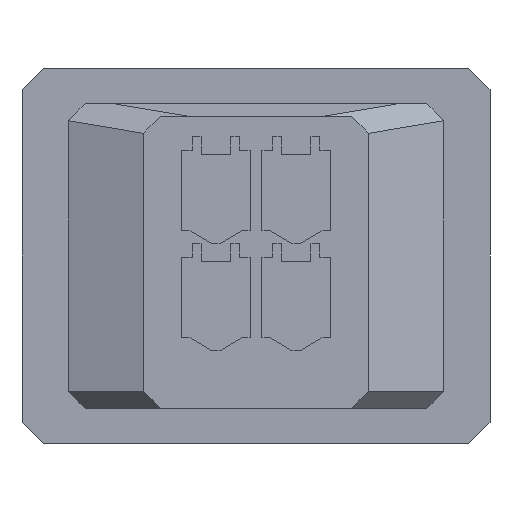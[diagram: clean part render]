
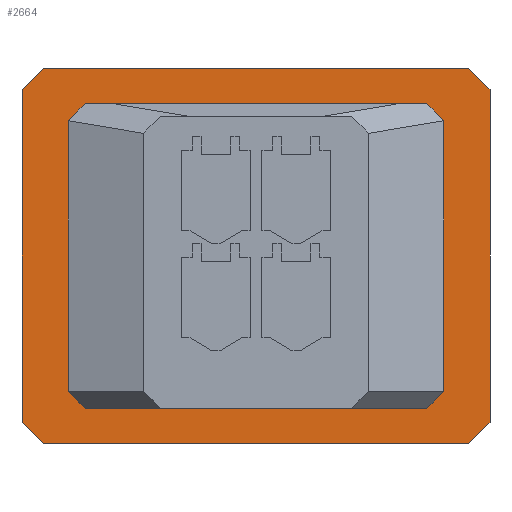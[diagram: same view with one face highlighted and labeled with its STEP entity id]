
A CAD part, front view. The second image highlights one B-rep face of the part: STEP entity #2664.
In plain terms, the highlighted planar face has unit normal (0, -1, 0).
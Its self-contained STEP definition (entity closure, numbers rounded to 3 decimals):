
#49 = EDGE_CURVE ( 'NONE', #2627, #2017, #389, .T. ) ;
#67 = EDGE_CURVE ( 'NONE', #2199, #2918, #1646, .T. ) ;
#231 = LINE ( 'NONE', #1821, #1850 ) ;
#247 = LINE ( 'NONE', #4068, #2994 ) ;
#264 = VERTEX_POINT ( 'NONE', #2554 ) ;
#388 = VECTOR ( 'NONE', #842, 1000. ) ;
#389 = LINE ( 'NONE', #3881, #2522 ) ;
#430 = DIRECTION ( 'NONE',  ( 0.707, 0., 0.707 ) ) ;
#459 = LINE ( 'NONE', #3989, #3125 ) ;
#500 = VECTOR ( 'NONE', #3398, 1000. ) ;
#503 = DIRECTION ( 'NONE',  ( -1., 0., 0. ) ) ;
#506 = VERTEX_POINT ( 'NONE', #3639 ) ;
#540 = VERTEX_POINT ( 'NONE', #780 ) ;
#577 = VECTOR ( 'NONE', #2949, 1000. ) ;
#591 = CARTESIAN_POINT ( 'NONE',  ( 29.175, 24.6, -7.89 ) ) ;
#614 = EDGE_CURVE ( 'NONE', #751, #2017, #3723, .T. ) ;
#633 = VECTOR ( 'NONE', #430, 1000. ) ;
#634 = VECTOR ( 'NONE', #2958, 1000. ) ;
#751 = VERTEX_POINT ( 'NONE', #3146 ) ;
#780 = CARTESIAN_POINT ( 'NONE',  ( 6.965, 24.6, 7.89 ) ) ;
#837 = DIRECTION ( 'NONE',  ( 0., 0., 1. ) ) ;
#842 = DIRECTION ( 'NONE',  ( 0.707, 0., -0.707 ) ) ;
#855 = ORIENTED_EDGE ( 'NONE', *, *, #2544, .T. ) ;
#873 = DIRECTION ( 'NONE',  ( 0., 0., -1. ) ) ;
#921 = CARTESIAN_POINT ( 'NONE',  ( 26.975, 24.6, -6.43 ) ) ;
#930 = ORIENTED_EDGE ( 'NONE', *, *, #67, .F. ) ;
#931 = VECTOR ( 'NONE', #2619, 1000. ) ;
#1121 = ORIENTED_EDGE ( 'NONE', *, *, #614, .T. ) ;
#1168 = ORIENTED_EDGE ( 'NONE', *, *, #2692, .T. ) ;
#1203 = ORIENTED_EDGE ( 'NONE', *, *, #3080, .T. ) ;
#1214 = CARTESIAN_POINT ( 'NONE',  ( 7.965, 24.6, -8.89 ) ) ;
#1248 = CARTESIAN_POINT ( 'NONE',  ( 0., 24.6, 0. ) ) ;
#1310 = ORIENTED_EDGE ( 'NONE', *, *, #2926, .F. ) ;
#1369 = VERTEX_POINT ( 'NONE', #3671 ) ;
#1392 = CARTESIAN_POINT ( 'NONE',  ( -0.463, 24.6, 0.463 ) ) ;
#1417 = CARTESIAN_POINT ( 'NONE',  ( 9.165, 24.6, -6.43 ) ) ;
#1500 = CARTESIAN_POINT ( 'NONE',  ( 21.734, 24.6, -11.671 ) ) ;
#1580 = EDGE_CURVE ( 'NONE', #751, #3790, #2494, .T. ) ;
#1617 = VERTEX_POINT ( 'NONE', #2578 ) ;
#1621 = LINE ( 'NONE', #2284, #931 ) ;
#1625 = DIRECTION ( 'NONE',  ( -0.707, 0., 0.707 ) ) ;
#1646 = LINE ( 'NONE', #3533, #3656 ) ;
#1659 = EDGE_CURVE ( 'NONE', #264, #506, #1621, .T. ) ;
#1703 = EDGE_CURVE ( 'NONE', #3191, #3317, #2939, .T. ) ;
#1722 = CARTESIAN_POINT ( 'NONE',  ( 6.965, 24.6, 0. ) ) ;
#1736 = DIRECTION ( 'NONE',  ( -1., 0., 0. ) ) ;
#1749 = LINE ( 'NONE', #2728, #633 ) ;
#1766 = LINE ( 'NONE', #1392, #2373 ) ;
#1767 = DIRECTION ( 'NONE',  ( 0., 0., 1. ) ) ;
#1821 = CARTESIAN_POINT ( 'NONE',  ( 26.975, 24.6, 0. ) ) ;
#1831 = EDGE_CURVE ( 'NONE', #3156, #540, #1766, .T. ) ;
#1839 = ORIENTED_EDGE ( 'NONE', *, *, #2959, .F. ) ;
#1850 = VECTOR ( 'NONE', #837, 1000. ) ;
#1860 = ORIENTED_EDGE ( 'NONE', *, *, #3688, .F. ) ;
#1923 = DIRECTION ( 'NONE',  ( 0.707, 0., -0.707 ) ) ;
#1967 = CARTESIAN_POINT ( 'NONE',  ( 0., 24.6, -8.89 ) ) ;
#2017 = VERTEX_POINT ( 'NONE', #3888 ) ;
#2056 = CARTESIAN_POINT ( 'NONE',  ( 26.975, 24.6, 6.43 ) ) ;
#2115 = ORIENTED_EDGE ( 'NONE', *, *, #1831, .T. ) ;
#2131 = ORIENTED_EDGE ( 'NONE', *, *, #3898, .T. ) ;
#2136 = ORIENTED_EDGE ( 'NONE', *, *, #49, .F. ) ;
#2199 = VERTEX_POINT ( 'NONE', #2056 ) ;
#2216 = DIRECTION ( 'NONE',  ( 0., -1., 0. ) ) ;
#2283 = EDGE_CURVE ( 'NONE', #2918, #264, #459, .T. ) ;
#2284 = CARTESIAN_POINT ( 'NONE',  ( 7.466, 24.6, 4.731 ) ) ;
#2294 = LINE ( 'NONE', #1967, #577 ) ;
#2373 = VECTOR ( 'NONE', #2998, 1000. ) ;
#2422 = CARTESIAN_POINT ( 'NONE',  ( 7.965, 24.6, 8.89 ) ) ;
#2480 = ORIENTED_EDGE ( 'NONE', *, *, #2283, .F. ) ;
#2482 = CARTESIAN_POINT ( 'NONE',  ( 6.965, 24.6, -7.89 ) ) ;
#2494 = LINE ( 'NONE', #1500, #2890 ) ;
#2522 = VECTOR ( 'NONE', #1923, 1000. ) ;
#2544 = EDGE_CURVE ( 'NONE', #1617, #3317, #1749, .T. ) ;
#2549 = CARTESIAN_POINT ( 'NONE',  ( 29.175, 24.6, 7.89 ) ) ;
#2554 = CARTESIAN_POINT ( 'NONE',  ( 9.965, 24.6, 7.23 ) ) ;
#2578 = CARTESIAN_POINT ( 'NONE',  ( 28.175, 24.6, -8.89 ) ) ;
#2619 = DIRECTION ( 'NONE',  ( -0.707, 0., -0.707 ) ) ;
#2627 = VERTEX_POINT ( 'NONE', #1417 ) ;
#2664 = ADVANCED_FACE ( 'NONE', ( #2703, #3980 ), #3734, .T. ) ;
#2677 = ORIENTED_EDGE ( 'NONE', *, *, #1580, .F. ) ;
#2679 = CARTESIAN_POINT ( 'NONE',  ( -7.62, 24.6, 8.89 ) ) ;
#2692 = EDGE_CURVE ( 'NONE', #3191, #1369, #247, .T. ) ;
#2699 = LINE ( 'NONE', #2679, #500 ) ;
#2703 = FACE_OUTER_BOUND ( 'NONE', #3544, .T. ) ;
#2728 = CARTESIAN_POINT ( 'NONE',  ( 18.532, 24.6, -18.533 ) ) ;
#2817 = DIRECTION ( 'NONE',  ( -0.707, 0., 0.707 ) ) ;
#2856 = DIRECTION ( 'NONE',  ( 0.707, 0., 0.707 ) ) ;
#2890 = VECTOR ( 'NONE', #2856, 1000. ) ;
#2918 = VERTEX_POINT ( 'NONE', #3706 ) ;
#2923 = VECTOR ( 'NONE', #503, 1000. ) ;
#2926 = EDGE_CURVE ( 'NONE', #3156, #1369, #2699, .T. ) ;
#2939 = LINE ( 'NONE', #3896, #634 ) ;
#2949 = DIRECTION ( 'NONE',  ( -1., 0., 0. ) ) ;
#2958 = DIRECTION ( 'NONE',  ( 0., 0., -1. ) ) ;
#2959 = EDGE_CURVE ( 'NONE', #3752, #540, #3975, .T. ) ;
#2994 = VECTOR ( 'NONE', #2817, 1000. ) ;
#2998 = DIRECTION ( 'NONE',  ( -0.707, 0., -0.707 ) ) ;
#3014 = LINE ( 'NONE', #3034, #388 ) ;
#3034 = CARTESIAN_POINT ( 'NONE',  ( -0.463, 24.6, -0.463 ) ) ;
#3071 = VECTOR ( 'NONE', #3240, 1000. ) ;
#3080 = EDGE_CURVE ( 'NONE', #3752, #3300, #3014, .T. ) ;
#3125 = VECTOR ( 'NONE', #1736, 1000. ) ;
#3146 = CARTESIAN_POINT ( 'NONE',  ( 26.175, 24.6, -7.23 ) ) ;
#3156 = VERTEX_POINT ( 'NONE', #2422 ) ;
#3170 = ORIENTED_EDGE ( 'NONE', *, *, #1659, .F. ) ;
#3191 = VERTEX_POINT ( 'NONE', #2549 ) ;
#3223 = VECTOR ( 'NONE', #1767, 1000. ) ;
#3240 = DIRECTION ( 'NONE',  ( 0., 0., 1. ) ) ;
#3300 = VERTEX_POINT ( 'NONE', #1214 ) ;
#3317 = VERTEX_POINT ( 'NONE', #591 ) ;
#3325 = AXIS2_PLACEMENT_3D ( 'NONE', #1248, #2216, #873 ) ;
#3327 = CARTESIAN_POINT ( 'NONE',  ( 43.76, 24.6, -7.23 ) ) ;
#3388 = EDGE_CURVE ( 'NONE', #1617, #3300, #2294, .T. ) ;
#3398 = DIRECTION ( 'NONE',  ( 1., 0., 0. ) ) ;
#3533 = CARTESIAN_POINT ( 'NONE',  ( 21.734, 24.6, 11.671 ) ) ;
#3535 = CARTESIAN_POINT ( 'NONE',  ( 9.165, 24.6, 0. ) ) ;
#3544 = EDGE_LOOP ( 'NONE', ( #1839, #1203, #3875, #855, #3931, #1168, #1310, #2115 ) ) ;
#3606 = EDGE_LOOP ( 'NONE', ( #2480, #930, #1860, #2677, #1121, #2136, #2131, #3170 ) ) ;
#3639 = CARTESIAN_POINT ( 'NONE',  ( 9.165, 24.6, 6.43 ) ) ;
#3656 = VECTOR ( 'NONE', #1625, 1000. ) ;
#3671 = CARTESIAN_POINT ( 'NONE',  ( 28.175, 24.6, 8.89 ) ) ;
#3688 = EDGE_CURVE ( 'NONE', #3790, #2199, #231, .T. ) ;
#3706 = CARTESIAN_POINT ( 'NONE',  ( 26.175, 24.6, 7.23 ) ) ;
#3723 = LINE ( 'NONE', #3327, #2923 ) ;
#3734 = PLANE ( 'NONE',  #3325 ) ;
#3752 = VERTEX_POINT ( 'NONE', #2482 ) ;
#3790 = VERTEX_POINT ( 'NONE', #921 ) ;
#3875 = ORIENTED_EDGE ( 'NONE', *, *, #3388, .F. ) ;
#3881 = CARTESIAN_POINT ( 'NONE',  ( 7.466, 24.6, -4.731 ) ) ;
#3888 = CARTESIAN_POINT ( 'NONE',  ( 9.965, 24.6, -7.23 ) ) ;
#3896 = CARTESIAN_POINT ( 'NONE',  ( 29.175, 24.6, 0. ) ) ;
#3898 = EDGE_CURVE ( 'NONE', #2627, #506, #4152, .T. ) ;
#3931 = ORIENTED_EDGE ( 'NONE', *, *, #1703, .F. ) ;
#3975 = LINE ( 'NONE', #1722, #3223 ) ;
#3980 = FACE_BOUND ( 'NONE', #3606, .T. ) ;
#3989 = CARTESIAN_POINT ( 'NONE',  ( 43.76, 24.6, 7.23 ) ) ;
#4068 = CARTESIAN_POINT ( 'NONE',  ( 18.532, 24.6, 18.533 ) ) ;
#4152 = LINE ( 'NONE', #3535, #3071 ) ;
